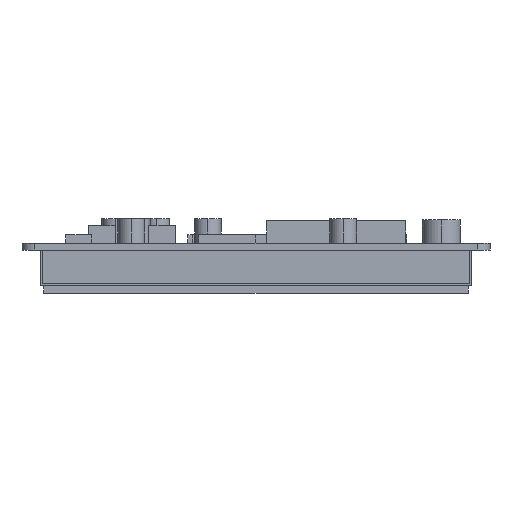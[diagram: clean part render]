
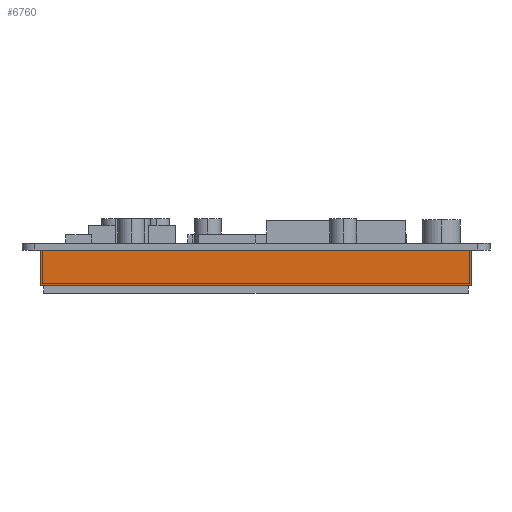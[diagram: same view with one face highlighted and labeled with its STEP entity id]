
A CAD part, front view. The second image highlights one B-rep face of the part: STEP entity #6760.
In plain terms, the highlighted planar face has unit normal (0, -1, 0).
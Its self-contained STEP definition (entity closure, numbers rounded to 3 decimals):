
#6487=DIRECTION('',(1.,0.,0.));
#6488=VECTOR('',#6487,101.6);
#6489=CARTESIAN_POINT('',(-50.804,-64.002,-10.));
#6490=LINE('',#6489,#6488);
#6515=DIRECTION('',(0.,0.,1.));
#6516=VECTOR('',#6515,8.4);
#6517=CARTESIAN_POINT('',(50.796,-64.002,-10.));
#6518=LINE('',#6517,#6516);
#6519=DIRECTION('',(0.,0.,1.));
#6520=VECTOR('',#6519,8.4);
#6521=CARTESIAN_POINT('',(-50.804,-64.002,-10.));
#6522=LINE('',#6521,#6520);
#6535=DIRECTION('',(1.,0.,0.));
#6536=VECTOR('',#6535,101.6);
#6537=CARTESIAN_POINT('',(-50.804,-64.002,-1.6));
#6538=LINE('',#6537,#6536);
#6627=CARTESIAN_POINT('',(-50.804,-64.002,-10.));
#6628=VERTEX_POINT('',#6627);
#6629=CARTESIAN_POINT('',(50.796,-64.002,-10.));
#6630=VERTEX_POINT('',#6629);
#6635=CARTESIAN_POINT('',(-50.804,-64.002,-1.6));
#6636=VERTEX_POINT('',#6635);
#6637=CARTESIAN_POINT('',(50.796,-64.002,-1.6));
#6638=VERTEX_POINT('',#6637);
#6747=CARTESIAN_POINT('',(-50.804,-64.002,-10.));
#6748=DIRECTION('',(0.,-1.,0.));
#6749=DIRECTION('',(1.,0.,0.));
#6750=AXIS2_PLACEMENT_3D('',#6747,#6748,#6749);
#6751=PLANE('',#6750);
#6752=ORIENTED_EDGE('',*,*,#6680,.F.);
#6754=ORIENTED_EDGE('',*,*,#6753,.T.);
#6756=ORIENTED_EDGE('',*,*,#6755,.T.);
#6757=ORIENTED_EDGE('',*,*,#6732,.F.);
#6758=EDGE_LOOP('',(#6752,#6754,#6756,#6757));
#6759=FACE_OUTER_BOUND('',#6758,.F.);
#6680=EDGE_CURVE('',#6628,#6630,#6490,.T.);
#6732=EDGE_CURVE('',#6630,#6638,#6518,.T.);
#6753=EDGE_CURVE('',#6628,#6636,#6522,.T.);
#6755=EDGE_CURVE('',#6636,#6638,#6538,.T.);
#6760=ADVANCED_FACE('',(#6759),#6751,.T.);
